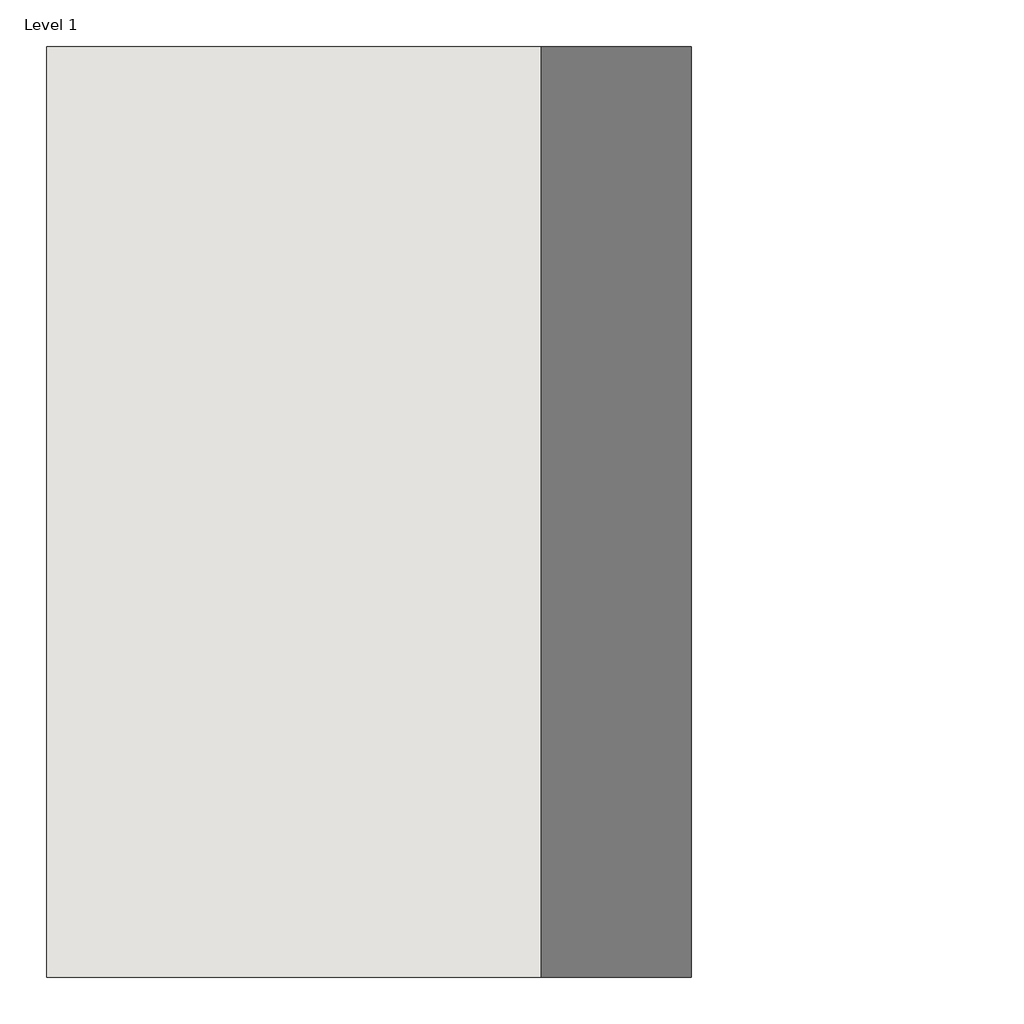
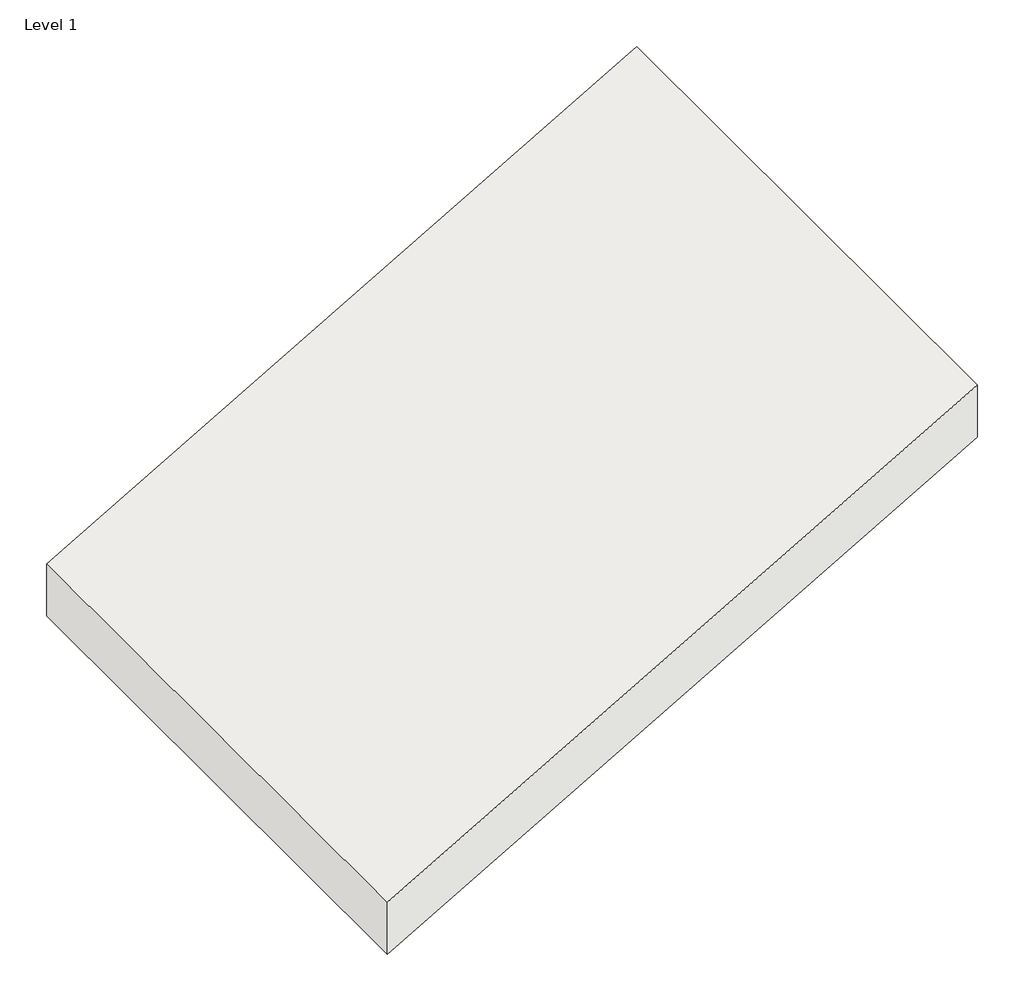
# One storey: 1 roof.
"""IFC4 building model written with IfcOpenShell, lengths in millimetres."""

from ifc_helpers import new_model, si_unit, frame, origin, place, context, project, spatial, polyline, outline, extrude, element, save

model = new_model("IFC4")

# Units and contexts
model_context = context("Model", 3, world=origin())
ifc_project = project(units=[si_unit("LENGTHUNIT", "METRE", prefix="MILLI")], contexts=[model_context])

# Site, building, storey
site = spatial("IfcSite", under=ifc_project)
building = spatial("IfcBuilding", under=site)
storey = spatial("IfcBuildingStorey", under=building, Name="Level 1", Elevation=0.0)

# Roof
placement = place(None, origin())
element("IfcRoof", 1, ObjectType="RIGIPS - 4.70.03 - REI 15", at=placement, inside=storey, context=model_context, shape_type="SweptSolid", body=[
    extrude(outline(polyline([(2012.0656881, 1500.0), (280.0148806, -1500.0), (0.0, -1500.0), (1732.0508076, 1500.0), (2012.0656881, 1500.0)])), frame((0.0, -1500.0, 0.0), z_axis=(0.0, 1.0, 0.0), x_axis=(0.0, 0.0, 1.0)), (0.0, 0.0, 1.0), 3000.0),
])

save(model, "model.ifc")
